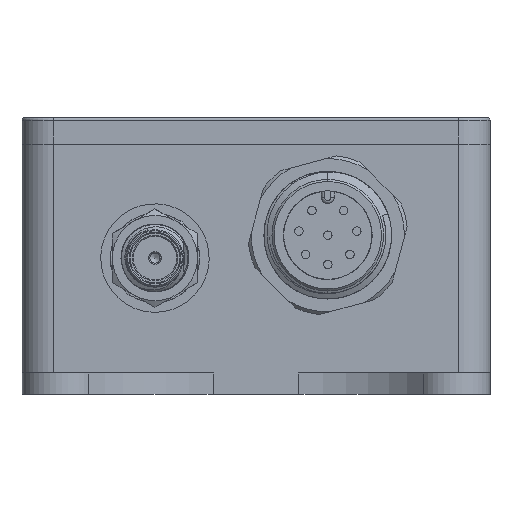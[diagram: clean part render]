
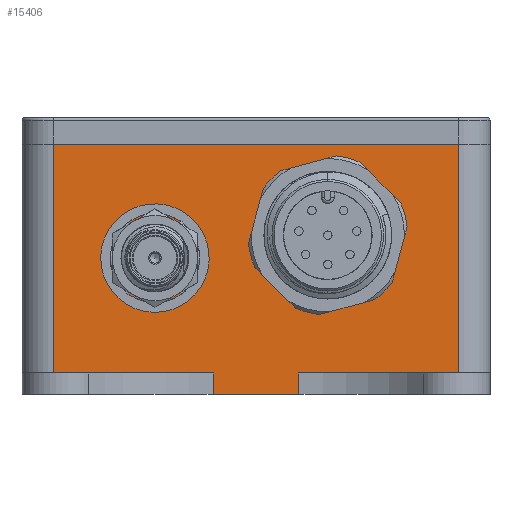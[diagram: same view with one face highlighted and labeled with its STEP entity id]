
A CAD part, left-side view. The second image highlights one B-rep face of the part: STEP entity #15406.
In plain terms, the highlighted planar face has unit normal (-1, 0, 0).
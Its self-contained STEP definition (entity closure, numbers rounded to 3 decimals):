
#327=FACE_BOUND('',#2084,.T.);
#328=FACE_BOUND('',#2085,.T.);
#551=PLANE('',#16597);
#1222=FACE_OUTER_BOUND('',#2083,.T.);
#2083=EDGE_LOOP('',(#12359,#12360,#12361,#12362,#12363,#12364,#12365,#12366));
#2084=EDGE_LOOP('',(#12367,#12368));
#2085=EDGE_LOOP('',(#12369));
#3466=LINE('',#51087,#4551);
#3470=LINE('',#51101,#4555);
#3471=LINE('',#51104,#4556);
#3472=LINE('',#51105,#4557);
#3473=LINE('',#51107,#4558);
#3474=LINE('',#51109,#4559);
#3475=LINE('',#51111,#4560);
#3476=LINE('',#51112,#4561);
#3477=LINE('',#51115,#4562);
#4551=VECTOR('',#19635,10.);
#4555=VECTOR('',#19647,15.);
#4556=VECTOR('',#19650,10.);
#4557=VECTOR('',#19651,10.);
#4558=VECTOR('',#19652,10.);
#4559=VECTOR('',#19653,10.);
#4560=VECTOR('',#19654,15.);
#4561=VECTOR('',#19655,10.);
#4562=VECTOR('',#19656,10.);
#5368=CIRCLE('',#16598,3.25);
#5369=CIRCLE('',#16599,6.05);
#6663=VERTEX_POINT('',#51084);
#6664=VERTEX_POINT('',#51086);
#6668=VERTEX_POINT('',#51095);
#6670=VERTEX_POINT('',#51099);
#6671=VERTEX_POINT('',#51103);
#6672=VERTEX_POINT('',#51106);
#6673=VERTEX_POINT('',#51108);
#6674=VERTEX_POINT('',#51110);
#6675=VERTEX_POINT('',#51113);
#6676=VERTEX_POINT('',#51114);
#6677=VERTEX_POINT('',#51117);
#8633=EDGE_CURVE('',#6664,#6663,#3466,.T.);
#8640=EDGE_CURVE('',#6670,#6668,#3470,.T.);
#8641=EDGE_CURVE('',#6670,#6671,#3471,.T.);
#8642=EDGE_CURVE('',#6664,#6671,#3472,.T.);
#8643=EDGE_CURVE('',#6672,#6663,#3473,.T.);
#8644=EDGE_CURVE('',#6672,#6673,#3474,.T.);
#8645=EDGE_CURVE('',#6674,#6673,#3475,.T.);
#8646=EDGE_CURVE('',#6668,#6674,#3476,.T.);
#8647=EDGE_CURVE('',#6675,#6676,#3477,.T.);
#8648=EDGE_CURVE('',#6676,#6675,#5368,.T.);
#8649=EDGE_CURVE('',#6677,#6677,#5369,.T.);
#12359=ORIENTED_EDGE('',*,*,#8640,.F.);
#12360=ORIENTED_EDGE('',*,*,#8641,.T.);
#12361=ORIENTED_EDGE('',*,*,#8642,.F.);
#12362=ORIENTED_EDGE('',*,*,#8633,.T.);
#12363=ORIENTED_EDGE('',*,*,#8643,.F.);
#12364=ORIENTED_EDGE('',*,*,#8644,.T.);
#12365=ORIENTED_EDGE('',*,*,#8645,.F.);
#12366=ORIENTED_EDGE('',*,*,#8646,.F.);
#12367=ORIENTED_EDGE('',*,*,#8647,.T.);
#12368=ORIENTED_EDGE('',*,*,#8648,.T.);
#12369=ORIENTED_EDGE('',*,*,#8649,.T.);
#15406=ADVANCED_FACE('',(#1222,#327,#328),#551,.T.);
#16597=AXIS2_PLACEMENT_3D('',#51102,#19648,#19649);
#16598=AXIS2_PLACEMENT_3D('',#51116,#19657,#19658);
#16599=AXIS2_PLACEMENT_3D('',#51118,#19659,#19660);
#19635=DIRECTION('',(0.,1.,0.));
#19647=DIRECTION('',(0.,0.,-1.));
#19648=DIRECTION('center_axis',(-1.,0.,0.));
#19649=DIRECTION('ref_axis',(0.,-1.,0.));
#19650=DIRECTION('',(0.,-1.,0.));
#19651=DIRECTION('',(0.,0.,-1.));
#19652=DIRECTION('',(0.,0.,1.));
#19653=DIRECTION('',(0.,-1.,0.));
#19654=DIRECTION('',(0.,0.,1.));
#19655=DIRECTION('',(0.,1.,0.));
#19656=DIRECTION('',(0.,0.,-1.));
#19657=DIRECTION('center_axis',(1.,0.,0.));
#19658=DIRECTION('ref_axis',(0.,0.,
1.));
#19659=DIRECTION('center_axis',(1.,0.,0.));
#19660=DIRECTION('ref_axis',(0.,0.,
-1.));
#51084=CARTESIAN_POINT('',(-27.,19.,19.288));
#51086=CARTESIAN_POINT('',(-27.,-19.,19.288));
#51087=CARTESIAN_POINT('',(-27.,0.,19.288));
#51095=CARTESIAN_POINT('',(-27.,-4.024,-4.212));
#51099=CARTESIAN_POINT('',(-27.,-4.024,-2.212));
#51101=CARTESIAN_POINT('',(-27.,-4.024,-4.212));
#51102=CARTESIAN_POINT('Origin',(-27.,22.,-4.212));
#51103=CARTESIAN_POINT('',(-27.,-19.,-2.212));
#51104=CARTESIAN_POINT('',(-27.,20.503,-2.212));
#51105=CARTESIAN_POINT('',(-27.,-19.,-4.212));
#51106=CARTESIAN_POINT('',(-27.,19.,-2.212));
#51107=CARTESIAN_POINT('',(-27.,19.,-4.212));
#51108=CARTESIAN_POINT('',(-27.,4.024,-2.212));
#51109=CARTESIAN_POINT('',(-27.,20.503,-2.212));
#51110=CARTESIAN_POINT('',(-27.,4.024,-4.212));
#51111=CARTESIAN_POINT('',(-27.,4.024,-4.212));
#51112=CARTESIAN_POINT('',(-27.,-22.,-4.212));
#51113=CARTESIAN_POINT('',(-27.,6.75,10.326));
#51114=CARTESIAN_POINT('',(-27.,6.75,6.862));
#51115=CARTESIAN_POINT('',(-27.,6.75,3.057));
#51116=CARTESIAN_POINT('Origin',(-27.,9.5,8.594));
#51117=CARTESIAN_POINT('',(-27.,-6.75,16.794));
#51118=CARTESIAN_POINT('Origin',(-27.,-6.75,10.744));
